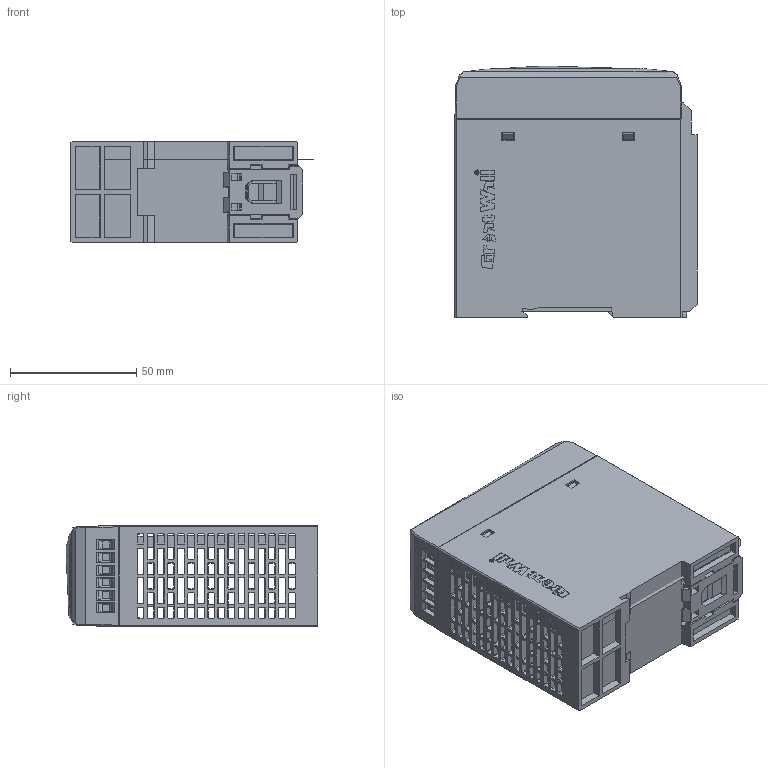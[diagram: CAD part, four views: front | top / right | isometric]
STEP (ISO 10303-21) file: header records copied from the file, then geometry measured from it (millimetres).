
FILE_DESCRIPTION(/* description */ (''),/* implementation_level */ '2;1');
FILE_NAME(/* name */ 'DR40M_60M',/* time_stamp */ '2025-08-04T10:46:29+08:00',/* author */ (''),/* organization */ (''),/* preprocessor_version */ 'ST-DEVELOPER v16.5',/* originating_system */ '',/* authorisation */ '');
FILE_SCHEMA (('AUTOMOTIVE_DESIGN'));
Products named in the file (9): Document; LED.PRT; EU1_5-03-7_50-00-FOR_CUSTOMER(1); Block 02; EU1_5-06-5_0-00; LATCH; PSU-BOT; None1; PSU-TOP
Assembly tree (8 placements, depth 3):
  Document
    LED.PRT
    EU1_5-03-7_50-00-FOR_CUSTOMER(1)
      Block 02
    EU1_5-06-5_0-00
    LATCH
    PSU-BOT
      None1
    PSU-TOP
Bounding box: 96.04 x 99.7 x 40 mm (x, y, z)
Volume: 71781.3 mm3; surface area: 94630.6 mm2
Topology: 33 solids, 115 shells, 3375 faces, 10642 edges, 7406 vertices
Faces by surface type: plane 1844, bspline 1531
Entity records: 147558 total; most frequent: CARTESIAN_POINT 82573, ORIENTED_EDGE 19946, EDGE_CURVE 10400, B_SPLINE_CURVE_WITH_KNOTS 8661, VERTEX_POINT 7106, EDGE_LOOP 3979, ADVANCED_FACE 3375, FACE_OUTER_BOUND 3375
